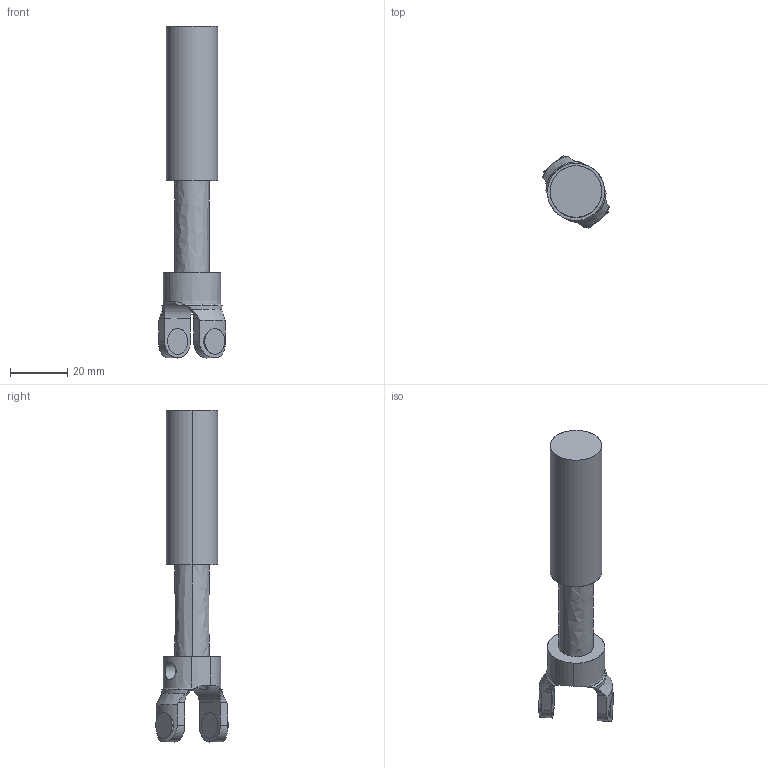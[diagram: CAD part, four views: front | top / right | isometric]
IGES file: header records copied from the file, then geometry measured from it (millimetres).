
Start section: SolidWorks IGES file using analytic representation for surfaces
Global section: file name: C:\Users\SELUHAA\Desktop\Work items\545792\IGES\IRB360_X-800-WD-4D_rev03_IGES_J\IRB360_X-800-WD-4D_rev03_U_CAD.IGS; native system: SolidWorks 2022; preprocessor: SolidWorks 2022; author: SELUHAA; date: 231128.145122; units: millimetre
Bounding box: 23.32 x 25.24 x 115.8 mm (x, y, z)
Surface area: 8395.3 mm2 (no closed solid volume)
Topology: 0 solids, 0 shells, 70 faces, 1397 edges, 1394 vertices
Faces by surface type: revolution 54, bspline 16
